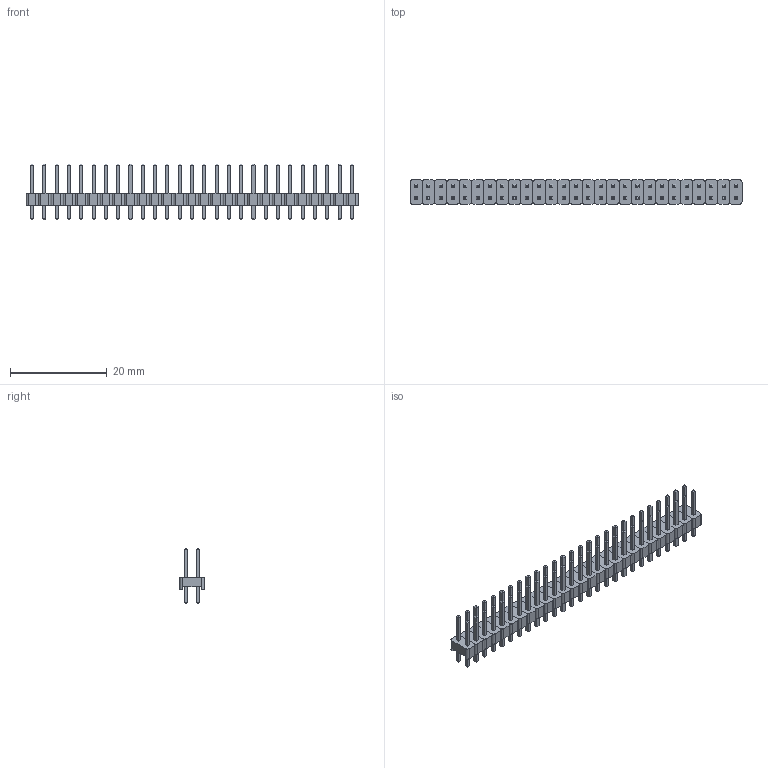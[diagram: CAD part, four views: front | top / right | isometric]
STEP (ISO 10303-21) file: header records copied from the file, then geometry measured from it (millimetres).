
FILE_DESCRIPTION(('FreeCAD Model'),'2;1');
FILE_NAME('Open CASCADE Shape Model','2022-04-06T16:02:35',( 'Engenharia Metaltex'),('Metaltex'), 'Open CASCADE STEP processor 7.5','FreeCAD','Unknown');
FILE_SCHEMA(('AUTOMOTIVE_DESIGN { 1 0 10303 214 1 1 1 1 }'));
Length unit declared in the file: millimetre
Products named in the file (109): BPDC; 27; Base026; Pino053; Pino054; 1; Base; Pino1; Pino2; 2; Base001; Pino003; Pino004; 3; Base002; Pino006; Pino005; 4; Base003; Pino008; Pino007; 5; Base004; Pino009; Pino010; 6; Base005; Pino012; Pino011; 7; Base006; Pino013; Pino014; 8; Base007; Pino015; Pino016; 9; Base008; Pino017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
Assembly tree (108 placements, depth 3):
  BPDC
    27
      Base026
      Pino053
      Pino054
    1
      Base
      Pino1
      Pino2
    2
      Base001
      Pino003
      Pino004
    3
      Base002
      Pino006
      Pino005
    4
      Base003
      Pino008
      Pino007
    5
      Base004
      Pino009
      Pino010
    6
      Base005
      Pino012
      Pino011
    7
      Base006
      Pino013
      Pino014
    8
      Base007
      Pino015
      Pino016
    9
      Base008
      Pino017
      Pino018
    10
      Base009
      Pino019
      Pino020
    11
      Base010
      Pino021
      Pino022
    12
      Base011
      Pino023
      Pino024
    13
      Base012
      Pino025
      Pino026
    14
      Base013
      Pino027
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Bounding box: 68.58 x 5.08 x 11.54 mm (x, y, z)
Volume: 942.9 mm3; surface area: 3473 mm2
Topology: 81 solids, 81 shells, 1350 faces, 3132 edges, 1944 vertices
Faces by surface type: plane 1242, cylinder 108
Entity records: 81019 total; most frequent: CARTESIAN_POINT 13447, DIRECTION 12422, LINE 8964, VECTOR 8964, ORIENTED_EDGE 6264, PCURVE 6264, DEFINITIONAL_REPRESENTATION 6264, EDGE_CURVE 3132
